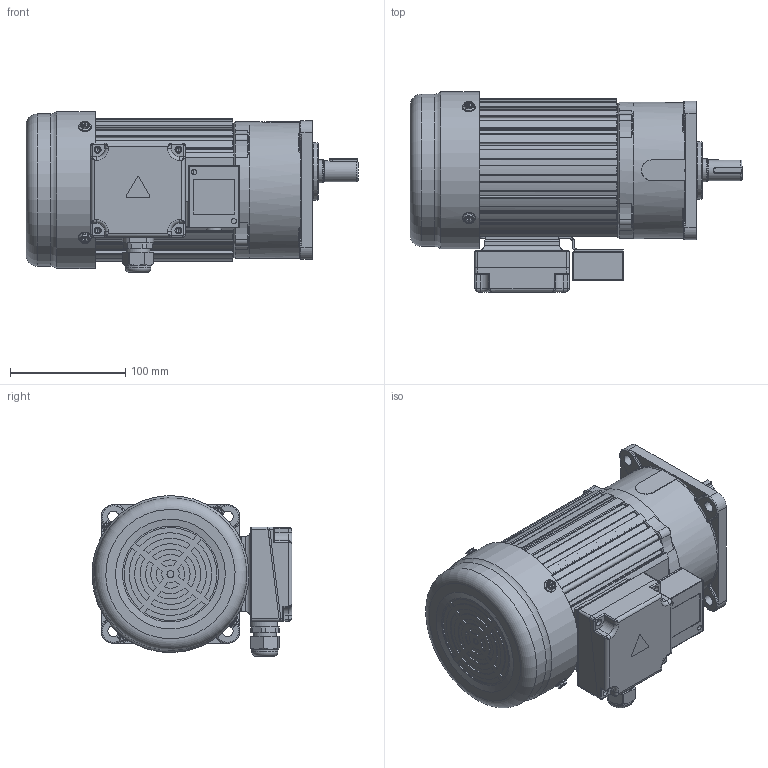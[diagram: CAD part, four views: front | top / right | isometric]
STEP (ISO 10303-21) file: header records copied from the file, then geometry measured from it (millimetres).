
FILE_DESCRIPTION(/* description */ (''),/* implementation_level */ '2;1');
FILE_NAME(/* name */ 'CV18-200-3～200外形多速比带刹车.stp',/* time_stamp */ '2025-05-02T09:59:15+08:00',/* author */ (''),/* organization */ (''),/* preprocessor_version */ 'ST-DEVELOPER v18.102',/* originating_system */ 'SIEMENS PLM Software NX 2027',/* authorisation */ '');
FILE_SCHEMA (('AP203_CONFIGURATION_CONTROLLED_3D_DESIGN_OF_MECHANICAL_PARTS_AND_ASSEMBLIES_MIM_LF { 1 0 10303 403 2 1 2}'));
Length unit declared in the file: millimetre
Products named in the file (1): CV18-200-3～200外形多速比带刹车_
objects
Bounding box: 287.5 x 173.19 x 139.19 mm (x, y, z)
Volume: 3032739.4 mm3; surface area: 329567.9 mm2
Topology: 23 solids, 23 shells, 3404 faces, 8798 edges, 5545 vertices
Faces by surface type: plane 1819, cylinder 882, cone 260, torus 201, bspline 96, extrusion 96, sphere 34, revolution 16
Full cylindrical faces by diameter (mm): 3 x1, 3.3 x4, 3.5 x1, 4.2 x12, 4.336 x2, 4.5 x2, 4.826 x2, 5 x4, 5.795 x3, 6 x1, 6.4 x4, 9.5 x4, 10 x5, 11 x7, 12.5 x1, 13 x1, 13.98 x1, 14.5 x1, 16 x3, 17 x2, 17.6 x1, 18 x1, 19.5 x1, 20 x4, 21 x1, 22.5 x1, 35 x1, 50 x2, 110.5 x1, 118 x2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
Entity records: 111936 total; most frequent: CARTESIAN_POINT 31710, ORIENTED_EDGE 17040, DIRECTION 15774, EDGE_CURVE 8520, AXIS2_PLACEMENT_3D 5512, VERTEX_POINT 5479, VECTOR 4734, LINE 4638
